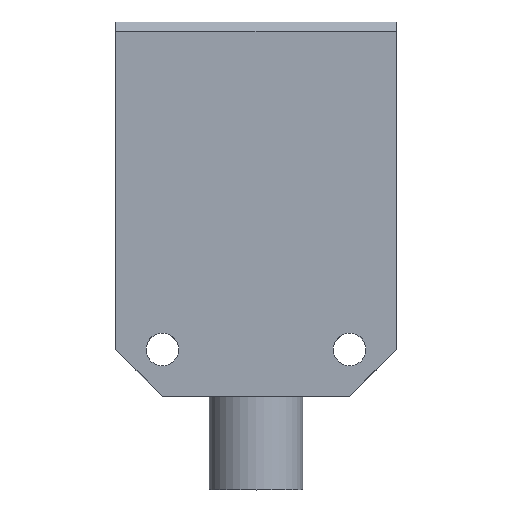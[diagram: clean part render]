
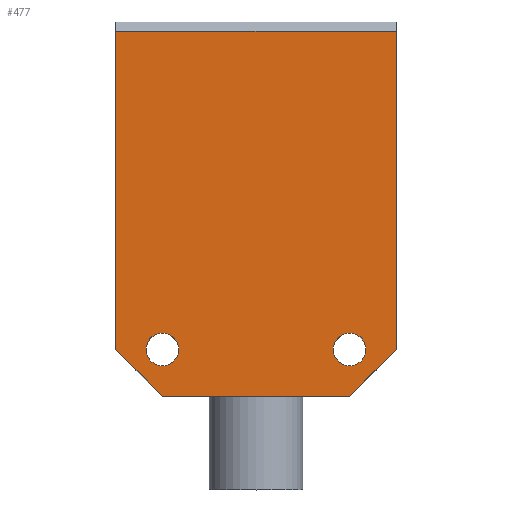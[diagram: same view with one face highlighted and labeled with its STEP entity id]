
A CAD part, top view. The second image highlights one B-rep face of the part: STEP entity #477.
In plain terms, the highlighted planar face has unit normal (0, 0, 1).
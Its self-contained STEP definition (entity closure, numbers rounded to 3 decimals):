
#23=FACE_BOUND('',#91,.T.);
#24=FACE_BOUND('',#92,.T.);
#31=PLANE('',#528);
#58=FACE_OUTER_BOUND('',#90,.T.);
#90=EDGE_LOOP('',(#357,#358,#359,#360,#361,#362));
#91=EDGE_LOOP('',(#363));
#92=EDGE_LOOP('',(#364));
#125=LINE('',#717,#178);
#126=LINE('',#720,#179);
#127=LINE('',#722,#180);
#128=LINE('',#724,#181);
#129=LINE('',#726,#182);
#130=LINE('',#727,#183);
#178=VECTOR('',#584,10.);
#179=VECTOR('',#587,10.);
#180=VECTOR('',#588,10.);
#181=VECTOR('',#589,10.);
#182=VECTOR('',#590,10.);
#183=VECTOR('',#591,10.);
#230=CIRCLE('',#529,1.75);
#231=CIRCLE('',#530,1.75);
#240=VERTEX_POINT('',#710);
#243=VERTEX_POINT('',#715);
#244=VERTEX_POINT('',#719);
#245=VERTEX_POINT('',#721);
#246=VERTEX_POINT('',#723);
#247=VERTEX_POINT('',#725);
#248=VERTEX_POINT('',#728);
#249=VERTEX_POINT('',#730);
#287=EDGE_CURVE('',#243,#240,#125,.T.);
#288=EDGE_CURVE('',#244,#243,#126,.T.);
#289=EDGE_CURVE('',#245,#244,#127,.T.);
#290=EDGE_CURVE('',#246,#245,#128,.T.);
#291=EDGE_CURVE('',#247,#246,#129,.T.);
#292=EDGE_CURVE('',#247,#240,#130,.T.);
#293=EDGE_CURVE('',#248,#248,#230,.T.);
#294=EDGE_CURVE('',#249,#249,#231,.T.);
#357=ORIENTED_EDGE('',*,*,#287,.F.);
#358=ORIENTED_EDGE('',*,*,#288,.F.);
#359=ORIENTED_EDGE('',*,*,#289,.F.);
#360=ORIENTED_EDGE('',*,*,#290,.F.);
#361=ORIENTED_EDGE('',*,*,#291,.F.);
#362=ORIENTED_EDGE('',*,*,#292,.T.);
#363=ORIENTED_EDGE('',*,*,#293,.T.);
#364=ORIENTED_EDGE('',*,*,#294,.T.);
#477=ADVANCED_FACE('',(#58,#23,#24),#31,.T.);
#528=AXIS2_PLACEMENT_3D('',#718,#585,#586);
#529=AXIS2_PLACEMENT_3D('',#729,#592,#593);
#530=AXIS2_PLACEMENT_3D('',#731,#594,#595);
#584=DIRECTION('',(1.,0.,0.));
#585=DIRECTION('center_axis',(0.,0.,1.));
#586=DIRECTION('ref_axis',(1.,0.,0.));
#587=DIRECTION('',(0.,1.,0.));
#588=DIRECTION('',(-0.707,0.707,0.));
#589=DIRECTION('',(-1.,0.,0.));
#590=DIRECTION('',(-0.707,-0.707,0.));
#591=DIRECTION('',(0.,1.,0.));
#592=DIRECTION('center_axis',(0.,0.,-1.));
#593=DIRECTION('ref_axis',(1.,0.,0.));
#594=DIRECTION('center_axis',(0.,0.,-1.));
#595=DIRECTION('ref_axis',(1.,0.,0.));
#710=CARTESIAN_POINT('',(15.,49.,6.));
#715=CARTESIAN_POINT('',(-15.,49.,6.));
#717=CARTESIAN_POINT('',(-7.5,49.,6.));
#718=CARTESIAN_POINT('Origin',(-15.,10.,6.));
#719=CARTESIAN_POINT('',(-15.,15.,6.));
#720=CARTESIAN_POINT('',(-15.,10.,6.));
#721=CARTESIAN_POINT('',(-10.,10.,6.));
#722=CARTESIAN_POINT('',(-12.5,12.5,6.));
#723=CARTESIAN_POINT('',(10.,10.,6.));
#724=CARTESIAN_POINT('',(15.,10.,6.));
#725=CARTESIAN_POINT('',(15.,15.,6.));
#726=CARTESIAN_POINT('',(5.,5.,6.));
#727=CARTESIAN_POINT('',(15.,10.,6.));
#728=CARTESIAN_POINT('',(8.25,15.,6.));
#729=CARTESIAN_POINT('Origin',(10.,15.,6.));
#730=CARTESIAN_POINT('',(-11.75,15.,6.));
#731=CARTESIAN_POINT('Origin',(-10.,15.,6.));
